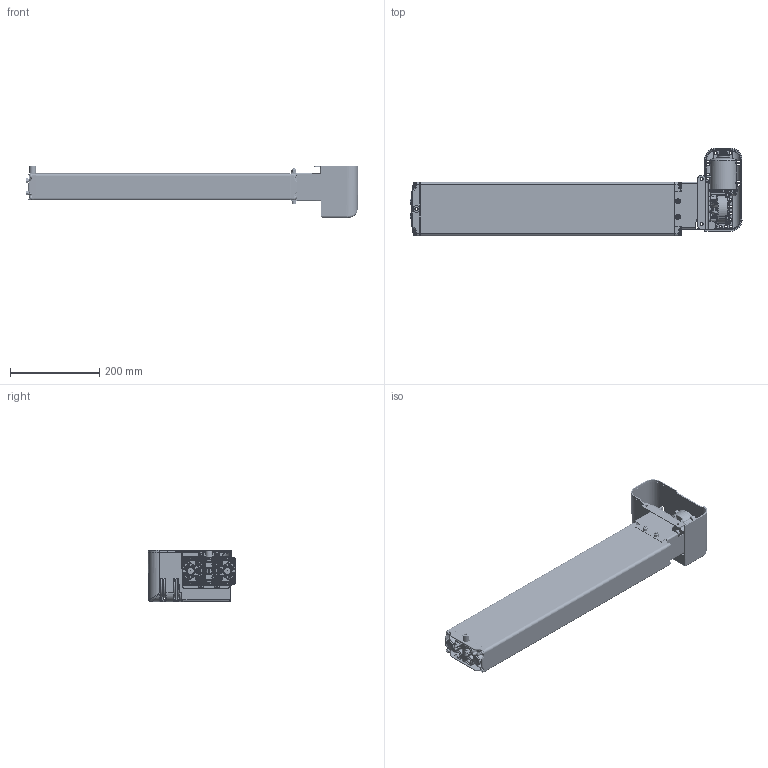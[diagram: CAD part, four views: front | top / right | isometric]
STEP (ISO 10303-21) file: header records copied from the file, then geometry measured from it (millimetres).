
FILE_DESCRIPTION(/* description */ ('Unknown'),/* implementation_level */ '2;1');
FILE_NAME(/* name */ '3x2.20080 Pumpe PB 3670 W mit Antriebl',/* time_stamp */ '2016-10-07T16:42:06+02:00',/* author */ ('Unknown'),/* organization */ ('Unknown'),/* preprocessor_version */ 'ST-DEVELOPER v16.7',/* originating_system */ 'DEX',/* authorisation */ $);
FILE_SCHEMA (('AUTOMOTIVE_DESIGN {1 0 10303 214 3 1 1}'));
Products named in the file (32): 102.20080; 115.00044; 125.00046; 142.00021; 125.00021; 115.00003; 142.00013; 125.00144; 115.00140; 126.00006; 122.00040; 119.00044; 126.00005; 127.00201; 127.00200; 127.00023; 124.00090; Getriebe; Ring; Schraube; Stator; Abdeckplatte; Antriebswelle; 128.00051; 123.00031; 142.00018; 142.00019; 142.00025; 142.00131; 123.00029; 142.00057; 142.00110
Assembly tree (47 placements, depth 3):
  102.20080
    115.00044  x3
      125.00046
      142.00021
      125.00021
      115.00003
    142.00013  x8
    125.00046
    125.00144
    115.00140
      126.00006
      122.00040
    119.00044
    126.00005
    127.00201
      127.00200
      127.00023
    124.00090
      Getriebe
      Ring
      Schraube
      Stator
      Abdeckplatte
      Antriebswelle
    128.00051
    123.00031
    142.00018  x2
    142.00019  x2
    142.00025  x2
    142.00131  x3
    123.00029
    142.00057
    142.00110  x2
Bounding box: 743.42 x 196.04 x 115.45 mm (x, y, z)
Volume: 1249745.2 mm3; surface area: 808275.2 mm2
Topology: 46 solids, 48 shells, 4756 faces, 12057 edges, 7303 vertices
Faces by surface type: bspline 1367, plane 1288, cylinder 1258, cone 479, torus 265, sphere 99
Full cylindrical faces by diameter (mm): 2.5 x4, 3.2 x4, 3.5 x4, 3.9 x5, 4.1 x3, 4.2 x6, 4.4 x5, 4.5 x1, 4.917 x2, 5 x8, 5.5 x5, 6 x6, 6.4 x2, 6.8 x5, 6.917 x8, 7 x1, 8 x8, 8.5 x6, 9 x2, 9.5 x1, 9.8 x8, 10 x8, 10.3 x1, 10.32 x1, 10.4 x1, 11 x5, 14 x2, 15 x1, 15.8 x2, 17 x1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
Entity records: 202744 total; most frequent: CARTESIAN_POINT 105890, ORIENTED_EDGE 19228, DIRECTION 14239, EDGE_CURVE 9614, VERTEX_POINT 6195, AXIS2_PLACEMENT_3D 5608, FACE_BOUND 4601, EDGE_LOOP 4596
